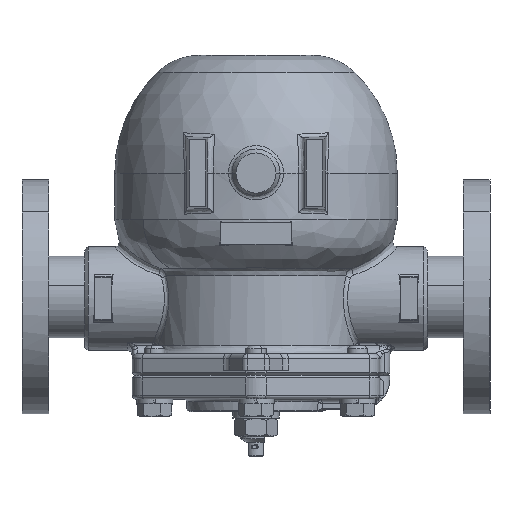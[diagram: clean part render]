
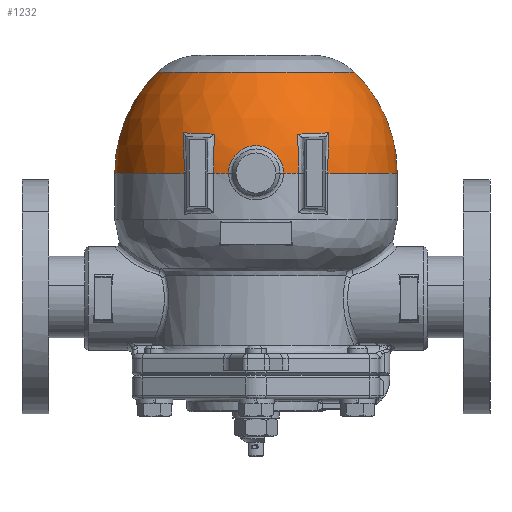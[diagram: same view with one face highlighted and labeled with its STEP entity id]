
A CAD part, top view. The second image highlights one B-rep face of the part: STEP entity #1232.
In plain terms, the highlighted spherical face has radius 84.5 mm.
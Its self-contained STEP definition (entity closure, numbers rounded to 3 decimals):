
#1232=ADVANCED_FACE('',(#7824),#7823,.T.);
#7823=SPHERICAL_SURFACE('',#20775,84.5);
#7824=FACE_OUTER_BOUND('',#20776,.T.);
#20772=CARTESIAN_POINT('',(75.,0.,0.));
#20773=DIRECTION('',(-1.,0.,0.));
#20774=DIRECTION('',(0.,0.009,-1.));
#20775=AXIS2_PLACEMENT_3D('',#20772,#20773,#20774);
#20776=EDGE_LOOP('',(#25117,#25118,#25119,#25120,#25121,#25122,#25123,#25124,#25125,#25126,#25127,#25128,#25129,#25130,#25131,#25132));
#25117=ORIENTED_EDGE('',*,*,#27424,.T.);
#25118=ORIENTED_EDGE('',*,*,#27425,.T.);
#25119=ORIENTED_EDGE('',*,*,#27420,.T.);
#25120=ORIENTED_EDGE('',*,*,#27426,.F.);
#25121=ORIENTED_EDGE('',*,*,#27348,.T.);
#25122=ORIENTED_EDGE('',*,*,#27031,.T.);
#25123=ORIENTED_EDGE('',*,*,#27306,.T.);
#25124=ORIENTED_EDGE('',*,*,#27427,.F.);
#25125=ORIENTED_EDGE('',*,*,#27037,.T.);
#25126=ORIENTED_EDGE('',*,*,#27428,.F.);
#25127=ORIENTED_EDGE('',*,*,#27304,.T.);
#25128=ORIENTED_EDGE('',*,*,#27003,.T.);
#25129=ORIENTED_EDGE('',*,*,#27305,.T.);
#25130=ORIENTED_EDGE('',*,*,#27429,.F.);
#25131=ORIENTED_EDGE('',*,*,#27430,.F.);
#25132=ORIENTED_EDGE('',*,*,#27423,.F.);
#27003=EDGE_CURVE('',#38850,#38843,#38851,.T.);
#27031=EDGE_CURVE('',#39040,#39033,#39041,.T.);
#27037=EDGE_CURVE('',#39081,#39073,#39082,.T.);
#27304=EDGE_CURVE('',#38822,#38850,#40807,.T.);
#27305=EDGE_CURVE('',#38843,#38787,#40813,.T.);
#27306=EDGE_CURVE('',#39033,#39060,#40819,.T.);
#27348=EDGE_CURVE('',#41076,#39040,#41077,.T.);
#27420=EDGE_CURVE('',#41549,#41542,#41550,.T.);
#27423=EDGE_CURVE('',#41563,#41516,#41570,.T.);
#27424=EDGE_CURVE('',#41563,#41576,#41577,.T.);
#27425=EDGE_CURVE('',#41576,#41549,#41583,.T.);
#27426=EDGE_CURVE('',#41076,#41542,#41589,.T.);
#27427=EDGE_CURVE('',#39081,#39060,#41595,.T.);
#27428=EDGE_CURVE('',#38822,#39073,#41601,.T.);
#27429=EDGE_CURVE('',#41607,#38787,#41608,.T.);
#27430=EDGE_CURVE('',#41516,#41607,#41614,.T.);
#38787=VERTEX_POINT('',#52145);
#38822=VERTEX_POINT('',#52167);
#38843=VERTEX_POINT('',#52195);
#38850=VERTEX_POINT('',#52208);
#38851=CIRCLE('',#52212,79.008);
#39033=VERTEX_POINT('',#52344);
#39040=VERTEX_POINT('',#52359);
#39041=CIRCLE('',#52363,79.008);
#39060=VERTEX_POINT('',#52395);
#39073=VERTEX_POINT('',#52403);
#39081=VERTEX_POINT('',#52409);
#39082=CIRCLE('',#52413,16.422);
#40807=CIRCLE('',#54448,82.531);
#40813=CIRCLE('',#54452,68.695);
#40819=CIRCLE('',#54456,82.531);
#41076=VERTEX_POINT('',#54762);
#41077=CIRCLE('',#54766,68.695);
#41516=VERTEX_POINT('',#55083);
#41542=VERTEX_POINT('',#55101);
#41549=VERTEX_POINT('',#55106);
#41550=(BOUNDED_CURVE() B_SPLINE_CURVE(2,(#55107,#55108,#55109),.UNSPECIFIED.,.F.,.F.) B_SPLINE_CURVE_WITH_KNOTS((3,3),(0.,1.),.UNSPECIFIED.) CURVE() GEOMETRIC_REPRESENTATION_ITEM() RATIONAL_B_SPLINE_CURVE((1.,0.922,1.)) REPRESENTATION_ITEM('') );
#41563=VERTEX_POINT('',#55115);
#41570=(BOUNDED_CURVE() B_SPLINE_CURVE(2,(#55120,#55121,#55122),.UNSPECIFIED.,.F.,.F.) B_SPLINE_CURVE_WITH_KNOTS((3,3),(0.,1.),.UNSPECIFIED.) CURVE() GEOMETRIC_REPRESENTATION_ITEM() RATIONAL_B_SPLINE_CURVE((0.75,0.691,0.75)) REPRESENTATION_ITEM('') );
#41576=VERTEX_POINT('',#55123);
#41577=CIRCLE('',#55127,59.138);
#41583=CIRCLE('',#55131,59.138);
#41589=CIRCLE('',#55135,84.5);
#41595=CIRCLE('',#55139,84.5);
#41601=CIRCLE('',#55143,84.5);
#41607=VERTEX_POINT('',#55144);
#41608=CIRCLE('',#55148,84.5);
#41614=CIRCLE('',#55152,84.5);
#52145=CARTESIAN_POINT('',(75.,-72.722,-43.032));
#52167=CARTESIAN_POINT('',(75.,-80.636,-25.26));
#52195=CARTESIAN_POINT('',(99.098,-68.373,-43.412));
#52208=CARTESIAN_POINT('',(98.318,-77.286,-24.967));
#52209=CARTESIAN_POINT('',(104.851,-2.612,0.));
#52210=DIRECTION('',(0.996,-0.087,0.));
#52211=DIRECTION('',(0.083,0.945,0.316));
#52212=AXIS2_PLACEMENT_3D('',#52209,#52210,#52211);
#52344=CARTESIAN_POINT('',(98.318,-77.286,24.967));
#52359=CARTESIAN_POINT('',(99.098,-68.373,43.412));
#52360=CARTESIAN_POINT('',(104.851,-2.612,0.));
#52361=DIRECTION('',(0.996,-0.087,0.));
#52362=DIRECTION('',(0.073,0.832,-0.549));
#52363=AXIS2_PLACEMENT_3D('',#52360,#52361,#52362);
#52395=CARTESIAN_POINT('',(75.,-80.636,25.26));
#52403=CARTESIAN_POINT('',(75.,-82.889,-16.422));
#52409=CARTESIAN_POINT('',(75.,-82.889,16.422));
#52410=CARTESIAN_POINT('',(75.,-82.889,0.));
#52411=DIRECTION('',(0.,1.,0.));
#52412=DIRECTION('',(0.,0.,-1.));
#52413=AXIS2_PLACEMENT_3D('',#52410,#52411,#52412);
#54445=CARTESIAN_POINT('',(75.,1.581,-18.067));
#54446=DIRECTION('',(0.,-0.087,0.996));
#54447=DIRECTION('',(0.,0.996,0.087));
#54448=AXIS2_PLACEMENT_3D('',#54445,#54446,#54447);
#54449=CARTESIAN_POINT('',(75.,-4.289,-49.019));
#54450=DIRECTION('',(0.,-0.087,-0.996));
#54451=DIRECTION('',(-0.351,0.933,-0.082));
#54452=AXIS2_PLACEMENT_3D('',#54449,#54450,#54451);
#54453=CARTESIAN_POINT('',(75.,1.581,18.067));
#54454=DIRECTION('',(0.,-0.087,-0.996));
#54455=DIRECTION('',(-0.283,0.956,-0.084));
#54456=AXIS2_PLACEMENT_3D('',#54453,#54454,#54455);
#54762=CARTESIAN_POINT('',(75.,-72.722,43.032));
#54763=CARTESIAN_POINT('',(75.,-4.289,49.019));
#54764=DIRECTION('',(0.,-0.087,0.996));
#54765=DIRECTION('',(0.,0.996,0.087));
#54766=AXIS2_PLACEMENT_3D('',#54763,#54764,#54765);
#55083=CARTESIAN_POINT('',(75.,0.737,-84.497));
#55101=CARTESIAN_POINT('',(75.,-0.737,84.497));
#55106=CARTESIAN_POINT('',(135.357,-0.516,59.135));
#55107=CARTESIAN_POINT('',(135.357,-0.516,59.135));
#55108=CARTESIAN_POINT('',(110.507,-0.737,84.497));
#55109=CARTESIAN_POINT('',(75.,-0.737,84.497));
#55115=CARTESIAN_POINT('',(135.357,0.516,-59.135));
#55120=CARTESIAN_POINT('',(135.357,0.516,-59.135));
#55121=CARTESIAN_POINT('',(110.507,0.737,-84.497));
#55122=CARTESIAN_POINT('',(75.,0.737,-84.497));
#55123=CARTESIAN_POINT('',(135.357,0.,-59.138));
#55124=CARTESIAN_POINT('',(135.357,0.,0.));
#55125=DIRECTION('',(-1.,0.,0.));
#55126=DIRECTION('',(0.,0.,-1.));
#55127=AXIS2_PLACEMENT_3D('',#55124,#55125,#55126);
#55128=CARTESIAN_POINT('',(135.357,0.,0.));
#55129=DIRECTION('',(-1.,0.,0.));
#55130=DIRECTION('',(0.,0.,-1.));
#55131=AXIS2_PLACEMENT_3D('',#55128,#55129,#55130);
#55132=CARTESIAN_POINT('',(75.,0.,0.));
#55133=DIRECTION('',(-1.,0.,0.));
#55134=DIRECTION('',(0.,0.,-1.));
#55135=AXIS2_PLACEMENT_3D('',#55132,#55133,#55134);
#55136=CARTESIAN_POINT('',(75.,0.,0.));
#55137=DIRECTION('',(-1.,0.,0.));
#55138=DIRECTION('',(0.,0.981,-0.194));
#55139=AXIS2_PLACEMENT_3D('',#55136,#55137,#55138);
#55140=CARTESIAN_POINT('',(75.,0.,0.));
#55141=DIRECTION('',(-1.,0.,0.));
#55142=DIRECTION('',(0.,0.954,0.299));
#55143=AXIS2_PLACEMENT_3D('',#55140,#55141,#55142);
#55144=CARTESIAN_POINT('',(75.,0.,-84.5));
#55145=CARTESIAN_POINT('',(75.,0.,0.));
#55146=DIRECTION('',(-1.,0.,0.));
#55147=DIRECTION('',(0.,-0.861,0.509));
#55148=AXIS2_PLACEMENT_3D('',#55145,#55146,#55147);
#55149=CARTESIAN_POINT('',(75.,0.,0.));
#55150=DIRECTION('',(-1.,0.,0.));
#55151=DIRECTION('',(0.,-0.861,0.509));
#55152=AXIS2_PLACEMENT_3D('',#55149,#55150,#55151);
